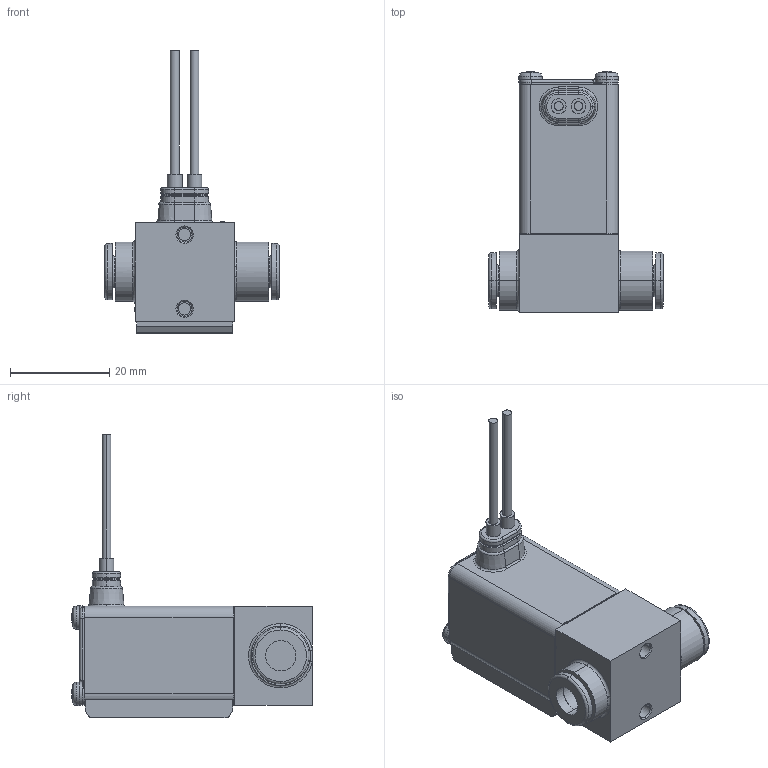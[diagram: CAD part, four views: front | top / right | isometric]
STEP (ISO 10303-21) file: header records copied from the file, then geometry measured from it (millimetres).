
FILE_DESCRIPTION (( 'STEP AP214' ), '1' );
FILE_NAME ('VDW20GA.step.step', '2023-02-07T09:15:24', ( '' ), ( '' ), 'SwSTEP 2.0', 'SolidWorks 2022', '' );
FILE_SCHEMA (( 'AUTOMOTIVE_DESIGN' ));
Length unit declared in the file: millimetre
Products named in the file (3): VDW20GA.step_VDW Grommet Block_DC; VDW20GA.step_VDW Body Resin_OT6; VDW20GA.step
Assembly tree (2 placements, depth 2):
  VDW20GA.step
    VDW20GA.step_VDW Grommet Block_DC
    VDW20GA.step_VDW Body Resin_OT6
Bounding box: 35.2 x 48.65 x 57.2 mm (x, y, z)
Volume: 21820 mm3; surface area: 7230.9 mm2
Topology: 2 solids, 2 shells, 238 faces, 555 edges, 348 vertices
Faces by surface type: plane 106, cylinder 81, torus 32, cone 11, bspline 8
Entity records: 8772 total; most frequent: CARTESIAN_POINT 2137, DIRECTION 1232, ORIENTED_EDGE 1110, EDGE_CURVE 555, AXIS2_PLACEMENT_3D 463, VERTEX_POINT 348, VECTOR 306, LINE 306
